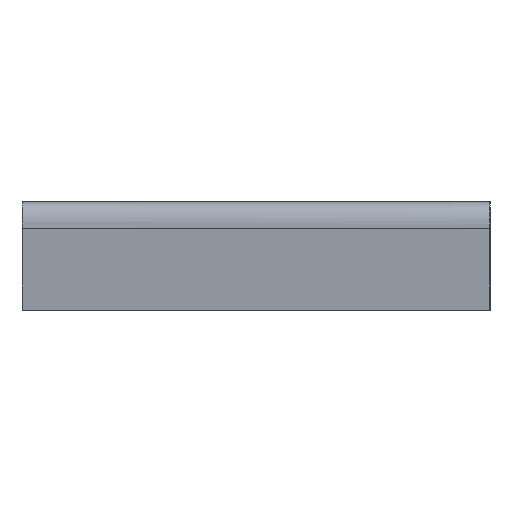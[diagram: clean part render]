
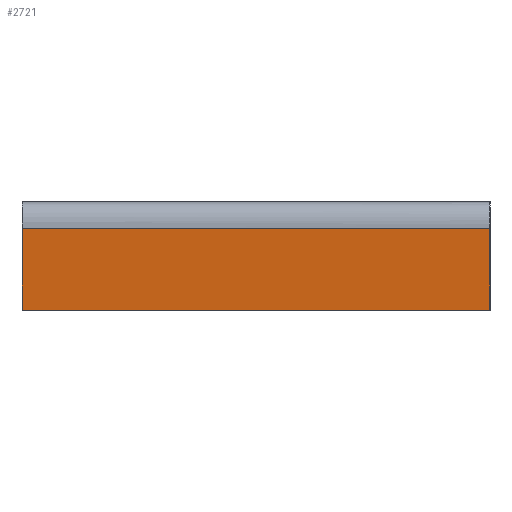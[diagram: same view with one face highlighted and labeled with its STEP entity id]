
A CAD part, left-side view. The second image highlights one B-rep face of the part: STEP entity #2721.
In plain terms, the highlighted planar face has unit normal (-0.996, 0, -0.091).
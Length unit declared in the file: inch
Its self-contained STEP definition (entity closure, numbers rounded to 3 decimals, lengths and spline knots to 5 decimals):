
#1159 = VERTEX_POINT ( 'NONE', #11937 ) ;
#1305 = ORIENTED_EDGE ( 'NONE', *, *, #2421, .F. ) ;
#1760 = EDGE_CURVE ( 'NONE', #9722, #1159, #6600, .T. ) ;
#1903 = DIRECTION ( 'NONE',  ( -0.091, 0., 0.996 ) ) ;
#1928 = CARTESIAN_POINT ( 'NONE',  ( -22.33375, 22.9375, 1.34581 ) ) ;
#2421 = EDGE_CURVE ( 'NONE', #9556, #9722, #13779, .T. ) ;
#2721 = ADVANCED_FACE ( 'NONE', ( #8671 ), #12605, .F. ) ;
#4084 = LINE ( 'NONE', #8100, #12147 ) ;
#4091 = CARTESIAN_POINT ( 'NONE',  ( -21.96875, 0., -2.65625 ) ) ;
#4649 = CARTESIAN_POINT ( 'NONE',  ( -22.33375, 22.9375, 1.34581 ) ) ;
#5226 = DIRECTION ( 'NONE',  ( 0., -1., 0. ) ) ;
#5824 = DIRECTION ( 'NONE',  ( 0.996, 0., 0.091 ) ) ;
#5899 = VERTEX_POINT ( 'NONE', #4091 ) ;
#6600 = LINE ( 'NONE', #8923, #8334 ) ;
#6837 = VECTOR ( 'NONE', #5226, 39.37008 ) ;
#7640 = VECTOR ( 'NONE', #15465, 39.37008 ) ;
#7839 = DIRECTION ( 'NONE',  ( 0., -1., 0. ) ) ;
#8083 = LINE ( 'NONE', #17356, #6837 ) ;
#8100 = CARTESIAN_POINT ( 'NONE',  ( -22.33375, 0., 1.34581 ) ) ;
#8334 = VECTOR ( 'NONE', #7839, 39.37008 ) ;
#8671 = FACE_OUTER_BOUND ( 'NONE', #14998, .T. ) ;
#8923 = CARTESIAN_POINT ( 'NONE',  ( -22.33375, 67.99885, 1.34581 ) ) ;
#9556 = VERTEX_POINT ( 'NONE', #10824 ) ;
#9722 = VERTEX_POINT ( 'NONE', #4649 ) ;
#10076 = ORIENTED_EDGE ( 'NONE', *, *, #11735, .F. ) ;
#10824 = CARTESIAN_POINT ( 'NONE',  ( -21.96875, 22.9375, -2.65625 ) ) ;
#11735 = EDGE_CURVE ( 'NONE', #1159, #5899, #4084, .T. ) ;
#11814 = ORIENTED_EDGE ( 'NONE', *, *, #1760, .F. ) ;
#11937 = CARTESIAN_POINT ( 'NONE',  ( -22.33375, 0., 1.34581 ) ) ;
#12147 = VECTOR ( 'NONE', #17630, 39.37008 ) ;
#12605 = PLANE ( 'NONE',  #15123 ) ;
#13779 = LINE ( 'NONE', #1928, #7640 ) ;
#14098 = CARTESIAN_POINT ( 'NONE',  ( -22.33375, 67.99885, 1.34581 ) ) ;
#14998 = EDGE_LOOP ( 'NONE', ( #15931, #10076, #11814, #1305 ) ) ;
#15123 = AXIS2_PLACEMENT_3D ( 'NONE', #14098, #5824, #1903 ) ;
#15465 = DIRECTION ( 'NONE',  ( -0.091, 0., 0.996 ) ) ;
#15931 = ORIENTED_EDGE ( 'NONE', *, *, #16903, .T. ) ;
#16903 = EDGE_CURVE ( 'NONE', #9556, #5899, #8083, .T. ) ;
#17356 = CARTESIAN_POINT ( 'NONE',  ( -21.96875, 67.99885, -2.65625 ) ) ;
#17630 = DIRECTION ( 'NONE',  ( 0.091, 0., -0.996 ) ) ;
